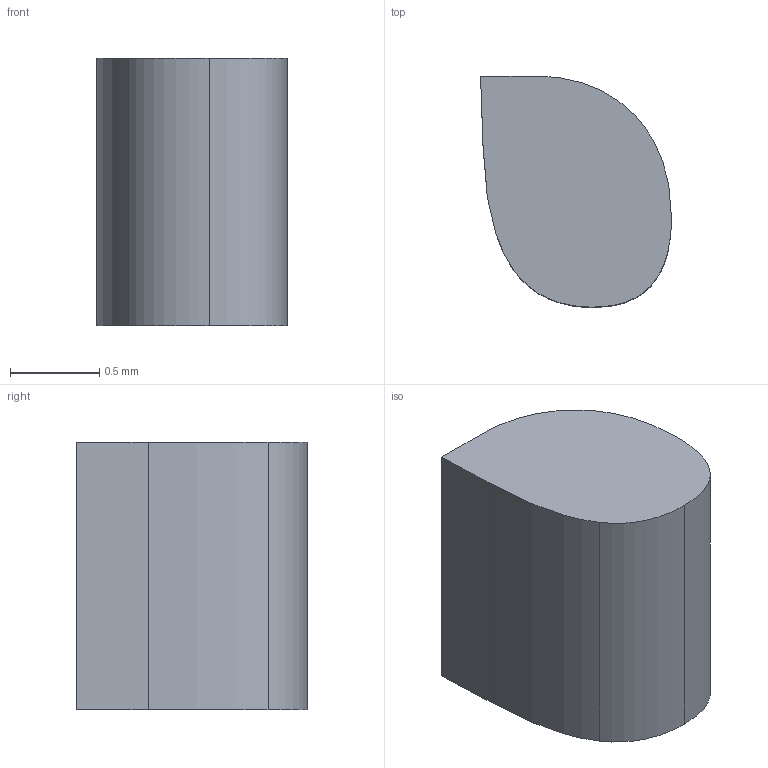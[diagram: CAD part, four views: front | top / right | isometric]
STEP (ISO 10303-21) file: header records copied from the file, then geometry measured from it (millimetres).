
FILE_DESCRIPTION(('STEP AP242 Edition 2','STEP AP242 Edition 2''CAx-IF Rec.Pracs.---Representation and Presentation of Product Manufacturing Information (PMI)---4.0---2014-10-13','STEP AP242 Edition 2''CAx-IF Rec.Pracs.---Representation and Presentation of Product Manufacturing Information (PMI)---4.0---2014-10-13''CAx-IF Rec.Pracs.---3D Tessellated Geometry---0.4---2014-09-14','STEP AP242 Edition 2''CAx-IF Rec.Pracs.---Representation and Presentation of Product Manufacturing Information (PMI)---4.0---2014-10-13''CAx-IF Rec.Pracs.---3D Tessellated Geometry---0.4---2014-09-14''2;1','STEP AP242 Edition 2''CAx-IF Rec.Pracs.---Representation and Presentation of Product Manufacturing Information (PMI)---4.0---2014-10-13''CAx-IF Rec.Pracs.---3D Tessellated Geometry---0.4---2014-09-14''2;1''CAx-IF Rec.Pracs.---User Defined Attributes---1.5---2016-08-15'),'2;1');
FILE_NAME('/vol/tmp/translate-17016349319801364938/Part Studio 2 - Part 5.step','2026-03-29T21:16:22',(''),(''),'ST-DEVELOPER v20','ONSHAPE BY PTC INC, 1.212',' ');
FILE_SCHEMA(('AP242_MANAGED_MODEL_BASED_3D_ENGINEERING_MIM_LF { 1 0 10303 442 3 1 4 }'));
Length unit declared in the file: metre
Products named in the file (1): Part 5
Bounding box: 1.07 x 1.29 x 1.5 mm (x, y, z)
Volume: 1.7 mm3; surface area: 8.1 mm2
Topology: 1 solids, 1 shells, 9 faces, 21 edges, 14 vertices
Faces by surface type: bspline 5, plane 4
Entity records: 297 total; most frequent: CARTESIAN_POINT 100, ORIENTED_EDGE 42, EDGE_CURVE 21, DIRECTION 21, VERTEX_POINT 14, LINE 11, VECTOR 11, B_SPLINE_CURVE_WITH_KNOTS 10
